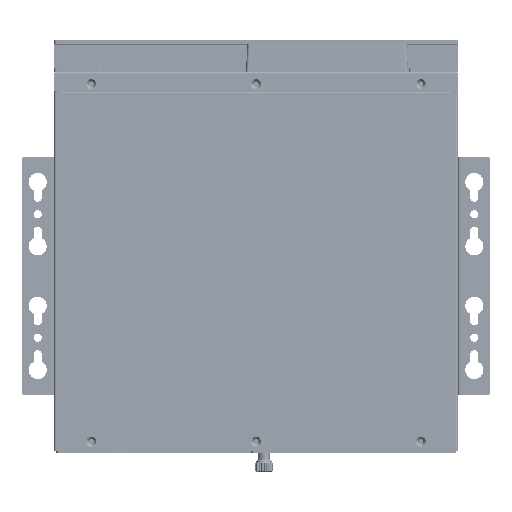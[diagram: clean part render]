
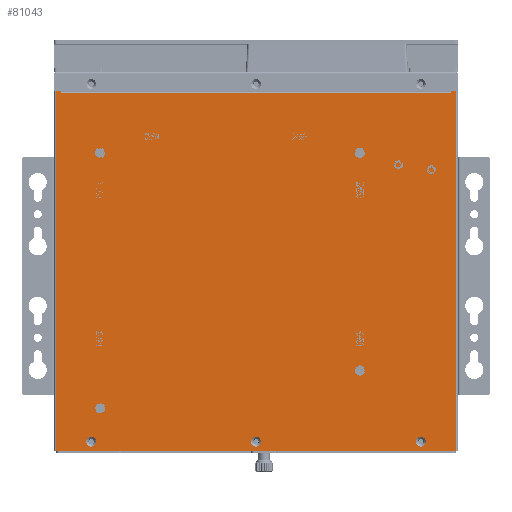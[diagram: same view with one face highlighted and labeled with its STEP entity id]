
A CAD part, front view. The second image highlights one B-rep face of the part: STEP entity #81043.
In plain terms, the highlighted planar face has unit normal (0, -1, 0).
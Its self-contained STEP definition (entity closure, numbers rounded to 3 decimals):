
#62907=DIRECTION('',(0.,0.,1.));
#62908=VECTOR('',#62907,218.);
#62909=CARTESIAN_POINT('',(121.3,0.,-218.));
#62910=LINE('',#62909,#62908);
#62915=DIRECTION('',(-1.,0.,0.));
#62916=VECTOR('',#62915,242.6);
#62917=CARTESIAN_POINT('',(121.3,0.,-218.));
#62918=LINE('',#62917,#62916);
#62919=CARTESIAN_POINT('',(62.95,0.,-169.37));
#62920=DIRECTION('',(0.,-1.,0.));
#62921=DIRECTION('',(1.,0.,0.));
#62922=AXIS2_PLACEMENT_3D('',#62919,#62920,#62921);
#62924=CARTESIAN_POINT('',(62.95,0.,-169.37));
#62925=DIRECTION('',(0.,-1.,0.));
#62926=DIRECTION('',(-1.,0.,0.));
#62927=AXIS2_PLACEMENT_3D('',#62924,#62925,#62926);
#62929=CARTESIAN_POINT('',(-94.53,0.,-192.23));
#62930=DIRECTION('',(0.,-1.,0.));
#62931=DIRECTION('',(1.,0.,0.));
#62932=AXIS2_PLACEMENT_3D('',#62929,#62930,#62931);
#62934=CARTESIAN_POINT('',(-94.53,0.,-192.23));
#62935=DIRECTION('',(0.,-1.,0.));
#62936=DIRECTION('',(-1.,0.,0.));
#62937=AXIS2_PLACEMENT_3D('',#62934,#62935,#62936);
#62939=CARTESIAN_POINT('',(62.95,0.,-37.29));
#62940=DIRECTION('',(0.,-1.,0.));
#62941=DIRECTION('',(1.,0.,0.));
#62942=AXIS2_PLACEMENT_3D('',#62939,#62940,#62941);
#62944=CARTESIAN_POINT('',(62.95,0.,-37.29));
#62945=DIRECTION('',(0.,-1.,0.));
#62946=DIRECTION('',(-1.,0.,0.));
#62947=AXIS2_PLACEMENT_3D('',#62944,#62945,#62946);
#62949=CARTESIAN_POINT('',(-94.53,0.,-37.29));
#62950=DIRECTION('',(0.,-1.,0.));
#62951=DIRECTION('',(1.,0.,0.));
#62952=AXIS2_PLACEMENT_3D('',#62949,#62950,#62951);
#62954=CARTESIAN_POINT('',(-94.53,0.,-37.29));
#62955=DIRECTION('',(0.,-1.,0.));
#62956=DIRECTION('',(-1.,0.,0.));
#62957=AXIS2_PLACEMENT_3D('',#62954,#62955,#62956);
#62959=CARTESIAN_POINT('',(-100.,0.,-212.5));
#62960=DIRECTION('',(0.,-1.,0.));
#62961=DIRECTION('',(1.,0.,0.));
#62962=AXIS2_PLACEMENT_3D('',#62959,#62960,#62961);
#62964=CARTESIAN_POINT('',(-100.,0.,-212.5));
#62965=DIRECTION('',(0.,-1.,0.));
#62966=DIRECTION('',(0.,0.,1.));
#62967=AXIS2_PLACEMENT_3D('',#62964,#62965,#62966);
#62969=CARTESIAN_POINT('',(-100.,0.,-212.5));
#62970=DIRECTION('',(0.,-1.,0.));
#62971=DIRECTION('',(-1.,0.,0.));
#62972=AXIS2_PLACEMENT_3D('',#62969,#62970,#62971);
#62974=CARTESIAN_POINT('',(-100.,0.,-212.5));
#62975=DIRECTION('',(0.,-1.,0.));
#62976=DIRECTION('',(0.,0.,-1.));
#62977=AXIS2_PLACEMENT_3D('',#62974,#62975,#62976);
#62979=CARTESIAN_POINT('',(0.,0.,-212.5));
#62980=DIRECTION('',(0.,-1.,0.));
#62981=DIRECTION('',(1.,0.,0.));
#62982=AXIS2_PLACEMENT_3D('',#62979,#62980,#62981);
#62984=CARTESIAN_POINT('',(0.,0.,-212.5));
#62985=DIRECTION('',(0.,-1.,0.));
#62986=DIRECTION('',(0.,0.,1.));
#62987=AXIS2_PLACEMENT_3D('',#62984,#62985,#62986);
#62989=CARTESIAN_POINT('',(0.,0.,-212.5));
#62990=DIRECTION('',(0.,-1.,0.));
#62991=DIRECTION('',(-1.,0.,0.));
#62992=AXIS2_PLACEMENT_3D('',#62989,#62990,#62991);
#62994=CARTESIAN_POINT('',(0.,0.,-212.5));
#62995=DIRECTION('',(0.,-1.,0.));
#62996=DIRECTION('',(0.,0.,-1.));
#62997=AXIS2_PLACEMENT_3D('',#62994,#62995,#62996);
#62999=CARTESIAN_POINT('',(100.,0.,-212.5));
#63000=DIRECTION('',(0.,-1.,0.));
#63001=DIRECTION('',(1.,0.,0.));
#63002=AXIS2_PLACEMENT_3D('',#62999,#63000,#63001);
#63004=CARTESIAN_POINT('',(100.,0.,-212.5));
#63005=DIRECTION('',(0.,-1.,0.));
#63006=DIRECTION('',(0.,0.,1.));
#63007=AXIS2_PLACEMENT_3D('',#63004,#63005,#63006);
#63009=CARTESIAN_POINT('',(100.,0.,-212.5));
#63010=DIRECTION('',(0.,-1.,0.));
#63011=DIRECTION('',(-1.,0.,0.));
#63012=AXIS2_PLACEMENT_3D('',#63009,#63010,#63011);
#63014=CARTESIAN_POINT('',(100.,0.,-212.5));
#63015=DIRECTION('',(0.,-1.,0.));
#63016=DIRECTION('',(0.,0.,-1.));
#63017=AXIS2_PLACEMENT_3D('',#63014,#63015,#63016);
#63019=DIRECTION('',(0.,0.,-1.));
#63020=VECTOR('',#63019,1.2);
#63021=CARTESIAN_POINT('',(118.28,0.,0.));
#63022=LINE('',#63021,#63020);
#63040=DIRECTION('',(-1.,0.,0.));
#63041=VECTOR('',#63040,236.56);
#63042=CARTESIAN_POINT('',(118.28,0.,-1.2));
#63043=LINE('',#63042,#63041);
#63186=DIRECTION('',(0.,0.,1.));
#63187=VECTOR('',#63186,1.2);
#63188=CARTESIAN_POINT('',(-118.28,0.,-1.2));
#63189=LINE('',#63188,#63187);
#63198=DIRECTION('',(-1.,0.,0.));
#63199=VECTOR('',#63198,3.02);
#63200=CARTESIAN_POINT('',(-118.28,0.,0.));
#63201=LINE('',#63200,#63199);
#63215=DIRECTION('',(0.,0.,-1.));
#63216=VECTOR('',#63215,218.);
#63217=CARTESIAN_POINT('',(-121.3,0.,0.));
#63218=LINE('',#63217,#63216);
#67584=DIRECTION('',(-1.,0.,0.));
#67585=VECTOR('',#67584,3.02);
#67586=CARTESIAN_POINT('',(121.3,0.,0.));
#67587=LINE('',#67586,#67585);
#76800=CARTESIAN_POINT('',(118.28,0.,0.));
#76801=VERTEX_POINT('',#76800);
#76802=CARTESIAN_POINT('',(121.3,0.,0.));
#76803=VERTEX_POINT('',#76802);
#76804=CARTESIAN_POINT('',(-118.28,0.,0.));
#76805=VERTEX_POINT('',#76804);
#76806=CARTESIAN_POINT('',(-121.3,0.,0.));
#76807=VERTEX_POINT('',#76806);
#76808=CARTESIAN_POINT('',(118.28,0.,-1.2));
#76809=VERTEX_POINT('',#76808);
#76810=CARTESIAN_POINT('',(121.3,0.,-218.));
#76811=VERTEX_POINT('',#76810);
#76812=CARTESIAN_POINT('',(-121.3,0.,-218.));
#76813=VERTEX_POINT('',#76812);
#76814=CARTESIAN_POINT('',(-118.28,0.,-1.2));
#76815=VERTEX_POINT('',#76814);
#76816=CARTESIAN_POINT('',(65.65,0.,-169.37));
#76817=CARTESIAN_POINT('',(60.25,0.,-169.37));
#76818=VERTEX_POINT('',#76816);
#76819=VERTEX_POINT('',#76817);
#76820=CARTESIAN_POINT('',(-91.83,0.,-192.23));
#76821=CARTESIAN_POINT('',(-97.23,0.,-192.23));
#76822=VERTEX_POINT('',#76820);
#76823=VERTEX_POINT('',#76821);
#76824=CARTESIAN_POINT('',(65.65,0.,-37.29));
#76825=CARTESIAN_POINT('',(60.25,0.,-37.29));
#76826=VERTEX_POINT('',#76824);
#76827=VERTEX_POINT('',#76825);
#76828=CARTESIAN_POINT('',(-91.83,0.,-37.29));
#76829=CARTESIAN_POINT('',(-97.23,0.,-37.29));
#76830=VERTEX_POINT('',#76828);
#76831=VERTEX_POINT('',#76829);
#76832=CARTESIAN_POINT('',(-100.,0.,-209.5));
#76833=CARTESIAN_POINT('',(-103.,0.,-212.5));
#76834=VERTEX_POINT('',#76832);
#76835=VERTEX_POINT('',#76833);
#76836=CARTESIAN_POINT('',(-97.,0.,-212.5));
#76837=VERTEX_POINT('',#76836);
#76838=CARTESIAN_POINT('',(-100.,0.,-215.5));
#76839=VERTEX_POINT('',#76838);
#76840=CARTESIAN_POINT('',(0.,0.,-209.5));
#76841=CARTESIAN_POINT('',(-3.,0.,-212.5));
#76842=VERTEX_POINT('',#76840);
#76843=VERTEX_POINT('',#76841);
#76844=CARTESIAN_POINT('',(3.,0.,-212.5));
#76845=VERTEX_POINT('',#76844);
#76846=CARTESIAN_POINT('',(0.,0.,-215.5));
#76847=VERTEX_POINT('',#76846);
#76848=CARTESIAN_POINT('',(100.,0.,-209.5));
#76849=CARTESIAN_POINT('',(97.,0.,-212.5));
#76850=VERTEX_POINT('',#76848);
#76851=VERTEX_POINT('',#76849);
#76852=CARTESIAN_POINT('',(103.,0.,-212.5));
#76853=VERTEX_POINT('',#76852);
#76854=CARTESIAN_POINT('',(100.,0.,-215.5));
#76855=VERTEX_POINT('',#76854);
#80967=CARTESIAN_POINT('',(-122.5,0.,0.));
#80968=DIRECTION('',(0.,-1.,0.));
#80969=DIRECTION('',(1.,0.,0.));
#80970=AXIS2_PLACEMENT_3D('',#80967,#80968,#80969);
#80971=PLANE('',#80970);
#80973=ORIENTED_EDGE('',*,*,#80972,.F.);
#80975=ORIENTED_EDGE('',*,*,#80974,.F.);
#80976=ORIENTED_EDGE('',*,*,#80958,.F.);
#80978=ORIENTED_EDGE('',*,*,#80977,.T.);
#80980=ORIENTED_EDGE('',*,*,#80979,.F.);
#80982=ORIENTED_EDGE('',*,*,#80981,.F.);
#80984=ORIENTED_EDGE('',*,*,#80983,.F.);
#80986=ORIENTED_EDGE('',*,*,#80985,.F.);
#80987=EDGE_LOOP('',(#80973,#80975,#80976,#80978,#80980,#80982,#80984,#80986));
#80988=FACE_OUTER_BOUND('',#80987,.F.);
#80990=ORIENTED_EDGE('',*,*,#80989,.T.);
#80992=ORIENTED_EDGE('',*,*,#80991,.T.);
#80993=EDGE_LOOP('',(#80990,#80992));
#80994=FACE_BOUND('',#80993,.F.);
#80996=ORIENTED_EDGE('',*,*,#80995,.T.);
#80998=ORIENTED_EDGE('',*,*,#80997,.T.);
#80999=EDGE_LOOP('',(#80996,#80998));
#81000=FACE_BOUND('',#80999,.F.);
#81002=ORIENTED_EDGE('',*,*,#81001,.T.);
#81004=ORIENTED_EDGE('',*,*,#81003,.T.);
#81005=EDGE_LOOP('',(#81002,#81004));
#81006=FACE_BOUND('',#81005,.F.);
#81008=ORIENTED_EDGE('',*,*,#81007,.T.);
#81010=ORIENTED_EDGE('',*,*,#81009,.T.);
#81011=EDGE_LOOP('',(#81008,#81010));
#81012=FACE_BOUND('',#81011,.F.);
#81014=ORIENTED_EDGE('',*,*,#81013,.T.);
#81016=ORIENTED_EDGE('',*,*,#81015,.T.);
#81018=ORIENTED_EDGE('',*,*,#81017,.T.);
#81020=ORIENTED_EDGE('',*,*,#81019,.T.);
#81021=EDGE_LOOP('',(#81014,#81016,#81018,#81020));
#81022=FACE_BOUND('',#81021,.F.);
#81024=ORIENTED_EDGE('',*,*,#81023,.T.);
#81026=ORIENTED_EDGE('',*,*,#81025,.T.);
#81028=ORIENTED_EDGE('',*,*,#81027,.T.);
#81030=ORIENTED_EDGE('',*,*,#81029,.T.);
#81031=EDGE_LOOP('',(#81024,#81026,#81028,#81030));
#81032=FACE_BOUND('',#81031,.F.);
#81034=ORIENTED_EDGE('',*,*,#81033,.T.);
#81036=ORIENTED_EDGE('',*,*,#81035,.T.);
#81038=ORIENTED_EDGE('',*,*,#81037,.T.);
#81040=ORIENTED_EDGE('',*,*,#81039,.T.);
#81041=EDGE_LOOP('',(#81034,#81036,#81038,#81040));
#81042=FACE_BOUND('',#81041,.F.);
#62923=CIRCLE('',#62922,2.7);
#62928=CIRCLE('',#62927,2.7);
#62933=CIRCLE('',#62932,2.7);
#62938=CIRCLE('',#62937,2.7);
#62943=CIRCLE('',#62942,2.7);
#62948=CIRCLE('',#62947,2.7);
#62953=CIRCLE('',#62952,2.7);
#62958=CIRCLE('',#62957,2.7);
#62963=CIRCLE('',#62962,3.);
#62968=CIRCLE('',#62967,3.);
#62973=CIRCLE('',#62972,3.);
#62978=CIRCLE('',#62977,3.);
#62983=CIRCLE('',#62982,3.);
#62988=CIRCLE('',#62987,3.);
#62993=CIRCLE('',#62992,3.);
#62998=CIRCLE('',#62997,3.);
#63003=CIRCLE('',#63002,3.);
#63008=CIRCLE('',#63007,3.);
#63013=CIRCLE('',#63012,3.);
#63018=CIRCLE('',#63017,3.);
#80958=EDGE_CURVE('',#76811,#76803,#62910,.T.);
#80972=EDGE_CURVE('',#76801,#76809,#63022,.T.);
#80974=EDGE_CURVE('',#76803,#76801,#67587,.T.);
#80977=EDGE_CURVE('',#76811,#76813,#62918,.T.);
#80979=EDGE_CURVE('',#76807,#76813,#63218,.T.);
#80981=EDGE_CURVE('',#76805,#76807,#63201,.T.);
#80983=EDGE_CURVE('',#76815,#76805,#63189,.T.);
#80985=EDGE_CURVE('',#76809,#76815,#63043,.T.);
#80989=EDGE_CURVE('',#76818,#76819,#62923,.T.);
#80991=EDGE_CURVE('',#76819,#76818,#62928,.T.);
#80995=EDGE_CURVE('',#76822,#76823,#62933,.T.);
#80997=EDGE_CURVE('',#76823,#76822,#62938,.T.);
#81001=EDGE_CURVE('',#76826,#76827,#62943,.T.);
#81003=EDGE_CURVE('',#76827,#76826,#62948,.T.);
#81007=EDGE_CURVE('',#76830,#76831,#62953,.T.);
#81009=EDGE_CURVE('',#76831,#76830,#62958,.T.);
#81013=EDGE_CURVE('',#76837,#76834,#62963,.T.);
#81015=EDGE_CURVE('',#76834,#76835,#62968,.T.);
#81017=EDGE_CURVE('',#76835,#76839,#62973,.T.);
#81019=EDGE_CURVE('',#76839,#76837,#62978,.T.);
#81023=EDGE_CURVE('',#76845,#76842,#62983,.T.);
#81025=EDGE_CURVE('',#76842,#76843,#62988,.T.);
#81027=EDGE_CURVE('',#76843,#76847,#62993,.T.);
#81029=EDGE_CURVE('',#76847,#76845,#62998,.T.);
#81033=EDGE_CURVE('',#76853,#76850,#63003,.T.);
#81035=EDGE_CURVE('',#76850,#76851,#63008,.T.);
#81037=EDGE_CURVE('',#76851,#76855,#63013,.T.);
#81039=EDGE_CURVE('',#76855,#76853,#63018,.T.);
#81043=ADVANCED_FACE('',(#80988,#80994,#81000,#81006,#81012,#81022,#81032,
#81042),#80971,.T.);
